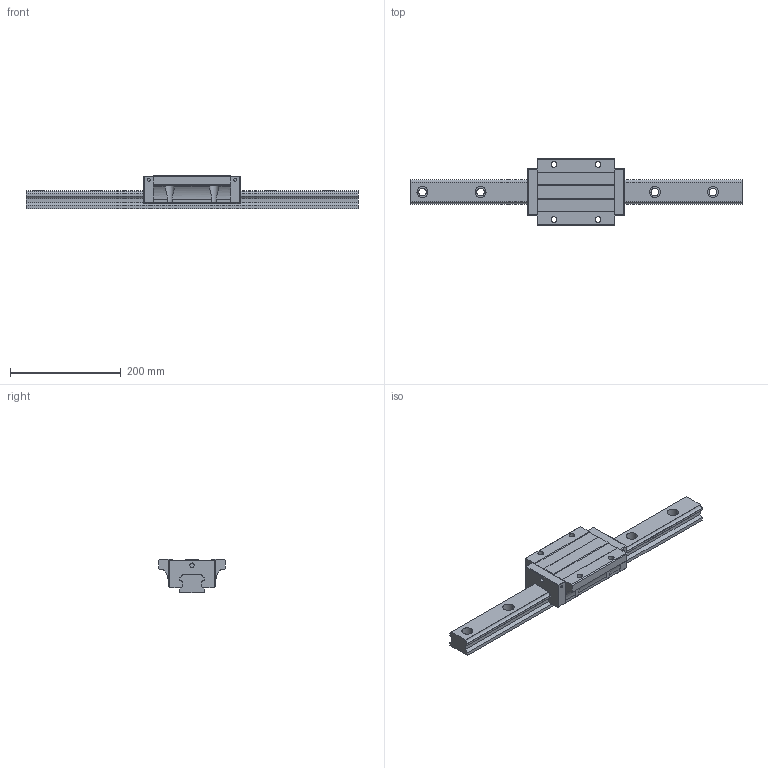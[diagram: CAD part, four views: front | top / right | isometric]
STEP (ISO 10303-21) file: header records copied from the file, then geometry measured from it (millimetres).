
FILE_DESCRIPTION (( 'STEP AP203' ), '1' );
FILE_NAME ('TRH45FE-XN.STEP', '2024-05-09T08:35:02', ( '' ), ( '' ), 'SwSTEP 2.0', 'SolidWorks 2022', '' );
FILE_SCHEMA (( 'CONFIG_CONTROL_DESIGN' ));
Length unit declared in the file: millimetre
Products named in the file (1): TRH45FE-XN
Bounding box: 600 x 120 x 60 mm (x, y, z)
Volume: 1368000.6 mm3; surface area: 182540.9 mm2
Topology: 2 solids, 2 shells, 214 faces, 582 edges, 380 vertices
Faces by surface type: cylinder 114, plane 96, sphere 4
Entity records: 7375 total; most frequent: CARTESIAN_POINT 1755, DIRECTION 1172, ORIENTED_EDGE 1156, EDGE_CURVE 578, AXIS2_PLACEMENT_3D 411, VERTEX_POINT 380, LINE 350, VECTOR 350
